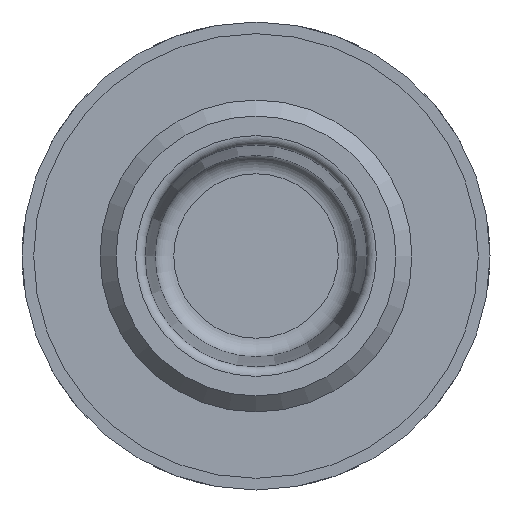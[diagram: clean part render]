
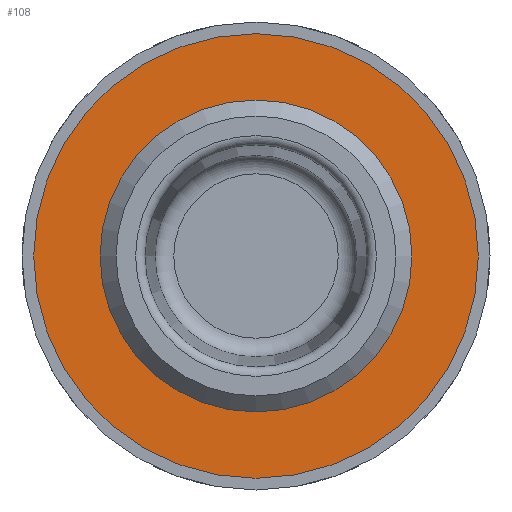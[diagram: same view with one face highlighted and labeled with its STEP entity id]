
A CAD part, left-side view. The second image highlights one B-rep face of the part: STEP entity #108.
In plain terms, the highlighted planar face has unit normal (-1, 0, 0).
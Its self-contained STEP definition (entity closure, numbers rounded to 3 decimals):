
#108 = ADVANCED_FACE( '', ( #200, #201 ), #202, .T. );
#200 = FACE_BOUND( '', #326, .T. );
#201 = FACE_OUTER_BOUND( '', #327, .T. );
#202 = PLANE( '', #328 );
#326 = EDGE_LOOP( '', ( #611 ) );
#327 = EDGE_LOOP( '', ( #612 ) );
#328 = AXIS2_PLACEMENT_3D( '', #613, #614, #615 );
#611 = ORIENTED_EDGE( '', *, *, #924, .T. );
#612 = ORIENTED_EDGE( '', *, *, #925, .F. );
#613 = CARTESIAN_POINT( '', ( 8.1, 11.875, 0. ) );
#614 = DIRECTION( '', ( -1., 0., 0. ) );
#615 = DIRECTION( '', ( 0., -1., 0. ) );
#924 = EDGE_CURVE( '', #1140, #1140, #1141, .T. );
#925 = EDGE_CURVE( '', #1142, #1142, #1143, .T. );
#1140 = VERTEX_POINT( '', #1488 );
#1141 = CIRCLE( '', #1489, 8.331 );
#1142 = VERTEX_POINT( '', #1490 );
#1143 = CIRCLE( '', #1491, 11.875 );
#1488 = CARTESIAN_POINT( '', ( 8.1, 8.331, 0. ) );
#1489 = AXIS2_PLACEMENT_3D( '', #1662, #1663, #1664 );
#1490 = CARTESIAN_POINT( '', ( 8.1, 11.875, 0. ) );
#1491 = AXIS2_PLACEMENT_3D( '', #1665, #1666, #1667 );
#1662 = CARTESIAN_POINT( '', ( 8.1, 0., 0. ) );
#1663 = DIRECTION( '', ( 1., 0., 0. ) );
#1664 = DIRECTION( '', ( 0., 1., 0. ) );
#1665 = CARTESIAN_POINT( '', ( 8.1, 0., 0. ) );
#1666 = DIRECTION( '', ( 1., 0., 0. ) );
#1667 = DIRECTION( '', ( 0., 1., 0. ) );
